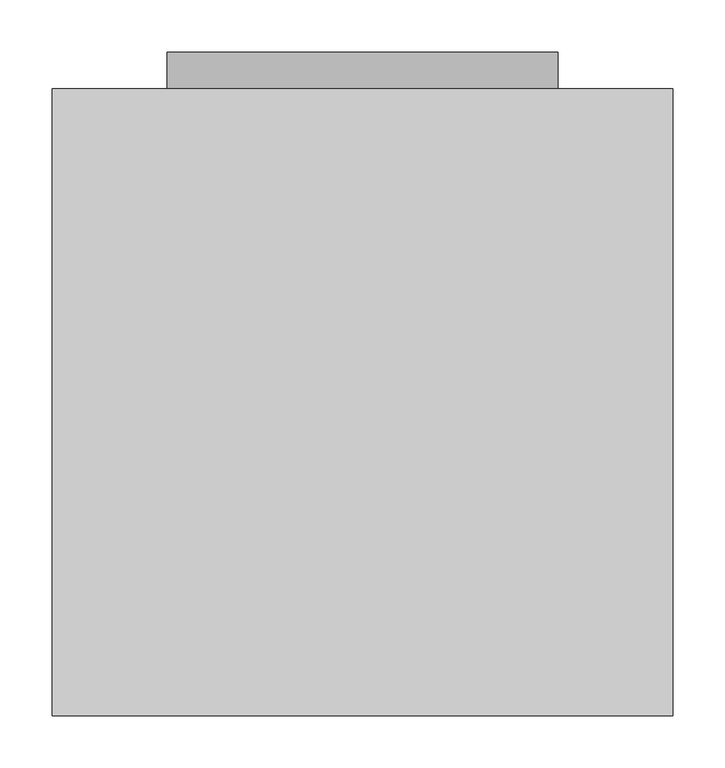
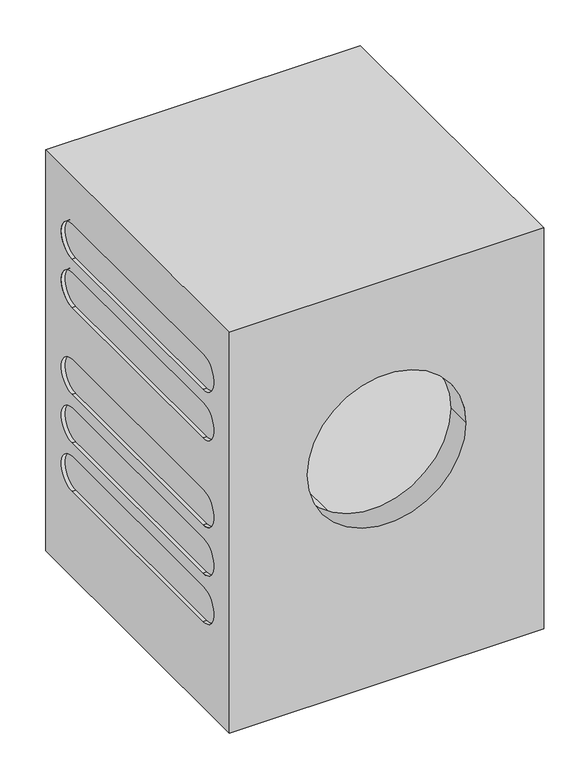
"""IFC4 building model written with IfcOpenShell, lengths in millimetres: proxy geometry, 11093960_F_PWM506DV_LWMopStar6 : 51506261_F_11093960_PWM506DV_LWMopStar6."""

from ifc_helpers import new_model, si_unit, point, frame, frame_2d, origin, place, context, project, spatial, polyline, circle_curve, trimmed, segment, composite_curve, outline, extrude, source, transform, mapped, element, save
from ifc_brep_helpers import plane_surface, revolved_surface, advanced_brep


def specialty_equipment_189d753a(model_context):
    return source(origin(), model_context, "Body", "SolidModel", [
        advanced_brep(
        [(298.0, -35.0, 816.0), (298.0, -35.0, 13.5), (-298.0, -35.0, 13.5), (-298.0, -35.0, 816.0), (215.0, -35.0, 130.0), (119.0, -35.0, 130.0), (119.0, -35.0, 80.0), (215.0, -35.0, 80.0), (298.0, -637.0, 816.0), (-298.0, -637.0, 816.0), (-298.0, -637.0, 13.5), (298.0, -637.0, 13.5), (150.0, -637.0, 478.0), (-150.0, -637.0, 478.0), (298.0, -552.0, 650.0), (298.0, -552.0, 720.0), (298.0, -122.0, 720.0), (298.0, -122.0, 650.0), (298.0, -552.0, 553.0), (298.0, -552.0, 623.0), (298.0, -122.0, 623.0), (298.0, -122.0, 553.0), (298.0, -552.0, 282.0), (298.0, -552.0, 352.0), (298.0, -122.0, 352.0), (298.0, -122.0, 282.0), (298.0, -552.0, 185.0), (298.0, -552.0, 255.0), (298.0, -122.0, 255.0), (298.0, -122.0, 185.0), (298.0, -552.0, 379.0), (298.0, -552.0, 449.0), (298.0, -122.0, 449.0), (298.0, -122.0, 379.0), (-298.0, -552.0, 720.0), (-298.0, -552.0, 650.0), (-298.0, -122.0, 650.0), (-298.0, -122.0, 720.0), (-298.0, -552.0, 623.0), (-298.0, -552.0, 553.0), (-298.0, -122.0, 553.0), (-298.0, -122.0, 623.0), (-298.0, -552.0, 352.0), (-298.0, -552.0, 282.0), (-298.0, -122.0, 282.0), (-298.0, -122.0, 352.0), (-298.0, -552.0, 255.0), (-298.0, -552.0, 185.0), (-298.0, -122.0, 185.0), (-298.0, -122.0, 255.0), (-298.0, -552.0, 379.0), (-298.0, -122.0, 379.0), (-298.0, -122.0, 449.0), (-298.0, -552.0, 449.0), (-150.0, -589.0, 478.0), (150.0, -589.0, 478.0), (0.0, -227.0, 238.0), (0.0, -227.0, 718.0), (0.0, -589.0, 238.0), (0.0, -589.0, 718.0), (-291.0, -552.0, 720.0), (-291.0, -122.0, 720.0), (-291.0, -122.0, 650.0), (-291.0, -552.0, 650.0), (-291.0, -552.0, 623.0), (-291.0, -122.0, 623.0), (-291.0, -122.0, 553.0), (-291.0, -552.0, 553.0), (-291.0, -552.0, 352.0), (-291.0, -122.0, 352.0), (-291.0, -122.0, 282.0), (-291.0, -552.0, 282.0), (-291.0, -552.0, 255.0), (-291.0, -122.0, 255.0), (-291.0, -122.0, 185.0), (-291.0, -552.0, 185.0), (291.0, -552.0, 720.0), (291.0, -552.0, 650.0), (291.0, -122.0, 650.0), (291.0, -122.0, 720.0), (291.0, -552.0, 623.0), (291.0, -552.0, 553.0), (291.0, -122.0, 553.0), (291.0, -122.0, 623.0), (291.0, -552.0, 352.0), (291.0, -552.0, 282.0), (291.0, -122.0, 282.0), (291.0, -122.0, 352.0), (291.0, -552.0, 255.0), (291.0, -552.0, 185.0), (291.0, -122.0, 185.0), (291.0, -122.0, 255.0), (-291.0, -552.0, 449.0), (-291.0, -122.0, 449.0), (-291.0, -122.0, 379.0), (-291.0, -552.0, 379.0), (291.0, -552.0, 449.0), (291.0, -552.0, 379.0), (291.0, -122.0, 379.0), (291.0, -122.0, 449.0), (119.0, -152.0, 130.0), (215.0, -152.0, 130.0), (215.0, -152.0, 80.0), (119.0, -152.0, 80.0)],
        [
            (0, 1),
            (1, 2),
            (2, 3),
            (3, 0),
            (4, 5),
            (5, 6),
            (6, 7),
            (7, 4),
            (8, 9),
            (9, 10),
            (10, 11),
            (11, 8),
            (12, 13, circle_curve(frame((0.0, -637.0, 478.0), z_axis=(0.0, 1.0, 0.0), x_axis=(-1.0, 0.0, 0.0)), 150.0)),
            (13, 12, circle_curve(frame((0.0, -637.0, 478.0), z_axis=(0.0, 1.0, 0.0), x_axis=(-1.0, 0.0, 0.0)), 150.0)),
            (0, 8),
            (11, 1),
            (14, 15, circle_curve(frame((298.0, -552.0, 685.0), z_axis=(-1.0, 0.0, 0.0), x_axis=(0.0, 1.0, 0.0)), 35.0)),
            (15, 16),
            (16, 17, circle_curve(frame((298.0, -122.0, 685.0), z_axis=(-1.0, 0.0, 0.0), x_axis=(0.0, 1.0, 0.0)), 35.0)),
            (17, 14),
            (18, 19, circle_curve(frame((298.0, -552.0, 588.0), z_axis=(-1.0, 0.0, 0.0), x_axis=(0.0, 1.0, 0.0)), 35.0)),
            (19, 20),
            (20, 21, circle_curve(frame((298.0, -122.0, 588.0), z_axis=(-1.0, 0.0, 0.0), x_axis=(0.0, 1.0, 0.0)), 35.0)),
            (21, 18),
            (22, 23, circle_curve(frame((298.0, -552.0, 317.0), z_axis=(-1.0, 0.0, 0.0), x_axis=(0.0, 1.0, 0.0)), 35.0)),
            (23, 24),
            (24, 25, circle_curve(frame((298.0, -122.0, 317.0), z_axis=(-1.0, 0.0, 0.0), x_axis=(0.0, 1.0, 0.0)), 35.0)),
            (25, 22),
            (26, 27, circle_curve(frame((298.0, -552.0, 220.0), z_axis=(-1.0, 0.0, 0.0), x_axis=(0.0, 1.0, 0.0)), 35.0)),
            (27, 28),
            (28, 29, circle_curve(frame((298.0, -122.0, 220.0), z_axis=(-1.0, 0.0, 0.0), x_axis=(0.0, 1.0, 0.0)), 35.0)),
            (29, 26),
            (30, 31, circle_curve(frame((298.0, -552.0, 414.0), z_axis=(-1.0, 0.0, 0.0), x_axis=(0.0, 1.0, 0.0)), 35.0)),
            (31, 32),
            (32, 33, circle_curve(frame((298.0, -122.0, 414.0), z_axis=(-1.0, 0.0, 0.0), x_axis=(0.0, 1.0, 0.0)), 35.0)),
            (33, 30),
            (10, 2),
            (9, 3),
            (34, 35, circle_curve(frame((-298.0, -552.0, 685.0), z_axis=(1.0, 0.0, 0.0), x_axis=(0.0, 1.0, 0.0)), 35.0)),
            (35, 36),
            (36, 37, circle_curve(frame((-298.0, -122.0, 685.0), z_axis=(1.0, 0.0, 0.0), x_axis=(0.0, 1.0, 0.0)), 35.0)),
            (37, 34),
            (38, 39, circle_curve(frame((-298.0, -552.0, 588.0), z_axis=(1.0, 0.0, 0.0), x_axis=(0.0, 1.0, 0.0)), 35.0)),
            (39, 40),
            (40, 41, circle_curve(frame((-298.0, -122.0, 588.0), z_axis=(1.0, 0.0, 0.0), x_axis=(0.0, 1.0, 0.0)), 35.0)),
            (41, 38),
            (42, 43, circle_curve(frame((-298.0, -552.0, 317.0), z_axis=(1.0, 0.0, 0.0), x_axis=(0.0, 1.0, 0.0)), 35.0)),
            (43, 44),
            (44, 45, circle_curve(frame((-298.0, -122.0, 317.0), z_axis=(1.0, 0.0, 0.0), x_axis=(0.0, 1.0, 0.0)), 35.0)),
            (45, 42),
            (46, 47, circle_curve(frame((-298.0, -552.0, 220.0), z_axis=(1.0, 0.0, 0.0), x_axis=(0.0, 1.0, 0.0)), 35.0)),
            (47, 48),
            (48, 49, circle_curve(frame((-298.0, -122.0, 220.0), z_axis=(1.0, 0.0, 0.0), x_axis=(0.0, 1.0, 0.0)), 35.0)),
            (49, 46),
            (50, 51),
            (51, 52, circle_curve(frame((-298.0, -122.0, 414.0), z_axis=(1.0, 0.0, 0.0), x_axis=(0.0, 1.0, 0.0)), 35.0)),
            (52, 53),
            (53, 50, circle_curve(frame((-298.0, -552.0, 414.0), z_axis=(1.0, 0.0, 0.0), x_axis=(0.0, 1.0, 0.0)), 35.0)),
            (54, 13),
            (12, 55),
            (55, 54, circle_curve(frame((0.0, -589.0, 478.0), z_axis=(0.0, 1.0, 0.0), x_axis=(-1.0, 0.0, 0.0)), 150.0)),
            (54, 55, circle_curve(frame((0.0, -589.0, 478.0), z_axis=(0.0, 1.0, 0.0), x_axis=(-1.0, 0.0, 0.0)), 150.0)),
            (56, 57, circle_curve(frame((0.0, -227.0, 478.0), z_axis=(0.0, -1.0, 0.0), x_axis=(0.0, 0.0, 1.0)), 240.0)),
            (57, 56, circle_curve(frame((0.0, -227.0, 478.0), z_axis=(0.0, -1.0, 0.0), x_axis=(0.0, 0.0, 1.0)), 240.0)),
            (58, 59, circle_curve(frame((0.0, -589.0, 478.0), z_axis=(0.0, 1.0, 0.0), x_axis=(0.0, 0.0, 1.0)), 240.0)),
            (59, 58, circle_curve(frame((0.0, -589.0, 478.0), z_axis=(0.0, 1.0, 0.0), x_axis=(0.0, 0.0, 1.0)), 240.0)),
            (56, 58),
            (59, 57),
            (60, 61),
            (61, 62, circle_curve(frame((-291.0, -122.0, 685.0), z_axis=(-1.0, 0.0, 0.0), x_axis=(0.0, 1.0, 0.0)), 35.0)),
            (62, 63),
            (63, 60, circle_curve(frame((-291.0, -552.0, 685.0), z_axis=(-1.0, 0.0, 0.0), x_axis=(0.0, 1.0, 0.0)), 35.0)),
            (64, 65),
            (65, 66, circle_curve(frame((-291.0, -122.0, 588.0), z_axis=(-1.0, 0.0, 0.0), x_axis=(0.0, 1.0, 0.0)), 35.0)),
            (66, 67),
            (67, 64, circle_curve(frame((-291.0, -552.0, 588.0), z_axis=(-1.0, 0.0, 0.0), x_axis=(0.0, 1.0, 0.0)), 35.0)),
            (68, 69),
            (69, 70, circle_curve(frame((-291.0, -122.0, 317.0), z_axis=(-1.0, 0.0, 0.0), x_axis=(0.0, 1.0, 0.0)), 35.0)),
            (70, 71),
            (71, 68, circle_curve(frame((-291.0, -552.0, 317.0), z_axis=(-1.0, 0.0, 0.0), x_axis=(0.0, 1.0, 0.0)), 35.0)),
            (72, 73),
            (73, 74, circle_curve(frame((-291.0, -122.0, 220.0), z_axis=(-1.0, 0.0, 0.0), x_axis=(0.0, 1.0, 0.0)), 35.0)),
            (74, 75),
            (75, 72, circle_curve(frame((-291.0, -552.0, 220.0), z_axis=(-1.0, 0.0, 0.0), x_axis=(0.0, 1.0, 0.0)), 35.0)),
            (63, 35),
            (34, 60),
            (62, 36),
            (61, 37),
            (67, 39),
            (38, 64),
            (66, 40),
            (65, 41),
            (71, 43),
            (42, 68),
            (70, 44),
            (69, 45),
            (75, 47),
            (46, 72),
            (74, 48),
            (73, 49),
            (76, 77, circle_curve(frame((291.0, -552.0, 685.0), z_axis=(1.0, 0.0, 0.0), x_axis=(0.0, 1.0, 0.0)), 35.0)),
            (77, 78),
            (78, 79, circle_curve(frame((291.0, -122.0, 685.0), z_axis=(1.0, 0.0, 0.0), x_axis=(0.0, 1.0, 0.0)), 35.0)),
            (79, 76),
            (80, 81, circle_curve(frame((291.0, -552.0, 588.0), z_axis=(1.0, 0.0, 0.0), x_axis=(0.0, 1.0, 0.0)), 35.0)),
            (81, 82),
            (82, 83, circle_curve(frame((291.0, -122.0, 588.0), z_axis=(1.0, 0.0, 0.0), x_axis=(0.0, 1.0, 0.0)), 35.0)),
            (83, 80),
            (84, 85, circle_curve(frame((291.0, -552.0, 317.0), z_axis=(1.0, 0.0, 0.0), x_axis=(0.0, 1.0, 0.0)), 35.0)),
            (85, 86),
            (86, 87, circle_curve(frame((291.0, -122.0, 317.0), z_axis=(1.0, 0.0, 0.0), x_axis=(0.0, 1.0, 0.0)), 35.0)),
            (87, 84),
            (88, 89, circle_curve(frame((291.0, -552.0, 220.0), z_axis=(1.0, 0.0, 0.0), x_axis=(0.0, 1.0, 0.0)), 35.0)),
            (89, 90),
            (90, 91, circle_curve(frame((291.0, -122.0, 220.0), z_axis=(1.0, 0.0, 0.0), x_axis=(0.0, 1.0, 0.0)), 35.0)),
            (91, 88),
            (76, 15),
            (14, 77),
            (17, 78),
            (16, 79),
            (80, 19),
            (18, 81),
            (21, 82),
            (20, 83),
            (84, 23),
            (22, 85),
            (25, 86),
            (24, 87),
            (88, 27),
            (26, 89),
            (29, 90),
            (28, 91),
            (92, 93),
            (93, 94, circle_curve(frame((-291.0, -122.0, 414.0), z_axis=(-1.0, 0.0, 0.0), x_axis=(0.0, 1.0, 0.0)), 35.0)),
            (94, 95),
            (95, 92, circle_curve(frame((-291.0, -552.0, 414.0), z_axis=(-1.0, 0.0, 0.0), x_axis=(0.0, 1.0, 0.0)), 35.0)),
            (94, 51),
            (50, 95),
            (92, 53),
            (52, 93),
            (96, 97, circle_curve(frame((291.0, -552.0, 414.0), z_axis=(1.0, 0.0, 0.0), x_axis=(0.0, 1.0, 0.0)), 35.0)),
            (97, 98),
            (98, 99, circle_curve(frame((291.0, -122.0, 414.0), z_axis=(1.0, 0.0, 0.0), x_axis=(0.0, 1.0, 0.0)), 35.0)),
            (99, 96),
            (96, 31),
            (30, 97),
            (33, 98),
            (32, 99),
            (100, 101),
            (101, 102),
            (102, 103),
            (103, 100),
            (100, 5),
            (4, 101),
            (7, 102),
            (6, 103),
        ],
        [
            plane_surface(frame((298.0, -35.0, 816.0), z_axis=(0.0, 1.0, 0.0), x_axis=(0.0, 0.0, -1.0))),
            plane_surface(frame((298.0, -637.0, 816.0), z_axis=(0.0, -1.0, 0.0), x_axis=(0.0, 0.0, 1.0))),
            plane_surface(frame((298.0, -35.0, 816.0), z_axis=(1.0, 0.0, 0.0), x_axis=(0.0, -1.0, 0.0))),
            plane_surface(frame((298.0, -35.0, 13.5), z_axis=(0.0, 0.0, -1.0), x_axis=(0.0, -1.0, 0.0))),
            plane_surface(frame((-298.0, -35.0, 13.5), z_axis=(-1.0, 0.0, 0.0), x_axis=(0.0, -1.0, 0.0))),
            plane_surface(frame((-298.0, -35.0, 816.0), z_axis=(0.0, 0.0, 1.0), x_axis=(0.0, -1.0, 0.0))),
            revolved_surface(polyline([(-150.0, -589.0, 478.0), (-150.0, -637.0, 478.0)]), (0.0, -637.0, 478.0), (0.0, 1.0, 0.0)),
            plane_surface(frame((0.0, -227.0, 718.0), z_axis=(0.0, -1.0, 0.0), x_axis=(1.0, 0.0, 0.0))),
            plane_surface(frame((0.0, -589.0, 718.0), z_axis=(0.0, 1.0, 0.0), x_axis=(-1.0, 0.0, 0.0))),
            revolved_surface(polyline([(0.0, -589.0, 718.0), (0.0, -227.0, 718.0)]), (0.0, -227.0, 478.0), (0.0, -1.0, 0.0)),
            plane_surface(frame((-291.0, -517.0, 685.0), z_axis=(-1.0, 0.0, 0.0), x_axis=(0.0, 0.0, 1.0))),
            revolved_surface(polyline([(-291.0, -517.0, 685.0), (-298.0, -517.0, 685.0)]), (-298.0, -552.0, 685.0), (1.0, 0.0, 0.0)),
            plane_surface(frame((-291.0, -552.0, 650.0), z_axis=(0.0, 0.0, 1.0), x_axis=(-1.0, 0.0, 0.0))),
            revolved_surface(polyline([(-291.0, -87.0, 685.0), (-298.0, -87.0, 685.0)]), (-298.0, -122.0, 685.0), (1.0, 0.0, 0.0)),
            plane_surface(frame((-291.0, -122.0, 720.0), z_axis=(0.0, 0.0, -1.0), x_axis=(-1.0, 0.0, 0.0))),
            revolved_surface(polyline([(-291.0, -517.0, 588.0), (-298.0, -517.0, 588.0)]), (-298.0, -552.0, 588.0), (1.0, 0.0, 0.0)),
            plane_surface(frame((-291.0, -552.0, 553.0), z_axis=(0.0, 0.0, 1.0), x_axis=(-1.0, 0.0, 0.0))),
            revolved_surface(polyline([(-291.0, -87.0, 588.0), (-298.0, -87.0, 588.0)]), (-298.0, -122.0, 588.0), (1.0, 0.0, 0.0)),
            plane_surface(frame((-291.0, -122.0, 623.0), z_axis=(0.0, 0.0, -1.0), x_axis=(-1.0, 0.0, 0.0))),
            revolved_surface(polyline([(-291.0, -517.0, 317.0), (-298.0, -517.0, 317.0)]), (-298.0, -552.0, 317.0), (1.0, 0.0, 0.0)),
            plane_surface(frame((-291.0, -552.0, 282.0), z_axis=(0.0, 0.0, 1.0), x_axis=(-1.0, 0.0, 0.0))),
            revolved_surface(polyline([(-291.0, -87.0, 317.0), (-298.0, -87.0, 317.0)]), (-298.0, -122.0, 317.0), (1.0, 0.0, 0.0)),
            plane_surface(frame((-291.0, -122.0, 352.0), z_axis=(0.0, 0.0, -1.0), x_axis=(-1.0, 0.0, 0.0))),
            revolved_surface(polyline([(-291.0, -517.0, 220.0), (-298.0, -517.0, 220.0)]), (-298.0, -552.0, 220.0), (1.0, 0.0, 0.0)),
            plane_surface(frame((-291.0, -552.0, 185.0), z_axis=(0.0, 0.0, 1.0), x_axis=(-1.0, 0.0, 0.0))),
            revolved_surface(polyline([(-291.0, -87.0, 220.0), (-298.0, -87.0, 220.0)]), (-298.0, -122.0, 220.0), (1.0, 0.0, 0.0)),
            plane_surface(frame((-291.0, -122.0, 255.0), z_axis=(0.0, 0.0, -1.0), x_axis=(-1.0, 0.0, 0.0))),
            plane_surface(frame((291.0, -517.0, 685.0), z_axis=(1.0, 0.0, 0.0), x_axis=(0.0, 0.0, -1.0))),
            revolved_surface(polyline([(298.0, -517.0, 685.0), (291.0, -517.0, 685.0)]), (291.0, -552.0, 685.0), (1.0, 0.0, 0.0)),
            plane_surface(frame((298.0, -552.0, 650.0), z_axis=(0.0, 0.0, 1.0), x_axis=(-1.0, 0.0, 0.0))),
            revolved_surface(polyline([(298.0, -87.0, 685.0), (291.0, -87.0, 685.0)]), (291.0, -122.0, 685.0), (1.0, 0.0, 0.0)),
            plane_surface(frame((298.0, -122.0, 720.0), z_axis=(0.0, 0.0, -1.0), x_axis=(-1.0, 0.0, 0.0))),
            revolved_surface(polyline([(298.0, -517.0, 588.0), (291.0, -517.0, 588.0)]), (298.0, -552.0, 588.0), (1.0, 0.0, 0.0)),
            plane_surface(frame((298.0, -552.0, 553.0), z_axis=(0.0, 0.0, 1.0), x_axis=(-1.0, 0.0, 0.0))),
            revolved_surface(polyline([(298.0, -87.0, 588.0), (291.0, -87.0, 588.0)]), (298.0, -122.0, 588.0), (1.0, 0.0, 0.0)),
            plane_surface(frame((298.0, -122.0, 623.0), z_axis=(0.0, 0.0, -1.0), x_axis=(-1.0, 0.0, 0.0))),
            revolved_surface(polyline([(298.0, -517.0, 317.0), (291.0, -517.0, 317.0)]), (298.0, -552.0, 317.0), (1.0, 0.0, 0.0)),
            plane_surface(frame((298.0, -552.0, 282.0), z_axis=(0.0, 0.0, 1.0), x_axis=(-1.0, 0.0, 0.0))),
            revolved_surface(polyline([(298.0, -87.0, 317.0), (291.0, -87.0, 317.0)]), (298.0, -122.0, 317.0), (1.0, 0.0, 0.0)),
            plane_surface(frame((298.0, -122.0, 352.0), z_axis=(0.0, 0.0, -1.0), x_axis=(-1.0, 0.0, 0.0))),
            revolved_surface(polyline([(298.0, -517.0, 220.0), (291.0, -517.0, 220.0)]), (298.0, -552.0, 220.0), (1.0, 0.0, 0.0)),
            plane_surface(frame((298.0, -552.0, 185.0), z_axis=(0.0, 0.0, 1.0), x_axis=(-1.0, 0.0, 0.0))),
            revolved_surface(polyline([(298.0, -87.0, 220.0), (291.0, -87.0, 220.0)]), (298.0, -122.0, 220.0), (1.0, 0.0, 0.0)),
            plane_surface(frame((298.0, -122.0, 255.0), z_axis=(0.0, 0.0, -1.0), x_axis=(-1.0, 0.0, 0.0))),
            plane_surface(frame((-291.0, -517.0, 414.0), z_axis=(-1.0, 0.0, 0.0), x_axis=(0.0, 0.0, 1.0))),
            plane_surface(frame((-291.0, -552.0, 379.0), z_axis=(0.0, 0.0, 1.0), x_axis=(-1.0, 0.0, 0.0))),
            plane_surface(frame((-291.0, -122.0, 449.0), z_axis=(0.0, 0.0, -1.0), x_axis=(-1.0, 0.0, 0.0))),
            revolved_surface(polyline([(-291.0, -517.0, 414.0), (-298.0, -517.0, 414.0)]), (-298.0, -552.0, 414.0), (1.0, 0.0, 0.0)),
            revolved_surface(polyline([(-291.0, -87.0, 414.0), (-298.0, -87.0, 414.0)]), (-298.0, -122.0, 414.0), (1.0, 0.0, 0.0)),
            plane_surface(frame((291.0, -517.0, 414.0), z_axis=(1.0, 0.0, 0.0), x_axis=(0.0, 0.0, -1.0))),
            revolved_surface(polyline([(298.0, -517.0, 414.0), (291.0, -517.0, 414.0)]), (291.0, -552.0, 414.0), (1.0, 0.0, 0.0)),
            plane_surface(frame((298.0, -552.0, 379.0), z_axis=(0.0, 0.0, 1.0), x_axis=(-1.0, 0.0, 0.0))),
            revolved_surface(polyline([(298.0, -87.0, 414.0), (291.0, -87.0, 414.0)]), (291.0, -122.0, 414.0), (1.0, 0.0, 0.0)),
            plane_surface(frame((298.0, -122.0, 449.0), z_axis=(0.0, 0.0, -1.0), x_axis=(-1.0, 0.0, 0.0))),
            plane_surface(frame((215.0, -152.0, 130.0), z_axis=(0.0, 1.0, 0.0), x_axis=(-1.0, 0.0, 0.0))),
            plane_surface(frame((119.0, -35.0, 130.0), z_axis=(0.0, 0.0, -1.0), x_axis=(0.0, -1.0, 0.0))),
            plane_surface(frame((215.0, -35.0, 130.0), z_axis=(-1.0, 0.0, 0.0), x_axis=(0.0, -1.0, 0.0))),
            plane_surface(frame((215.0, -35.0, 80.0), z_axis=(0.0, 0.0, 1.0), x_axis=(0.0, -1.0, 0.0))),
            plane_surface(frame((119.0, -35.0, 80.0), z_axis=(1.0, 0.0, 0.0), x_axis=(0.0, -1.0, 0.0))),
        ],
        [
            (0, [[1, 2, 3, 4], [5, 6, 7, 8]]),
            (1, [[9, 10, 11, 12], [13, 14]]),
            (2, [[-1, 15, -12, 16], [17, 18, 19, 20], [21, 22, 23, 24], [25, 26, 27, 28], [29, 30, 31, 32], [33, 34, 35, 36]]),
            (3, [[-2, -16, -11, 37]]),
            (4, [[-3, -37, -10, 38], [39, 40, 41, 42], [43, 44, 45, 46], [47, 48, 49, 50], [51, 52, 53, 54], [55, 56, 57, 58]]),
            (5, [[-4, -38, -9, -15]]),
            (6, [[59, -13, 60, 61]]),
            (6, [[-59, 62, -60, -14]]),
            (7, [[63, 64]]),
            (8, [[65, 66], [-61, -62]]),
            (9, [[-63, 67, -66, 68]]),
            (9, [[-64, -68, -65, -67]]),
            (10, [[69, 70, 71, 72]]),
            (10, [[73, 74, 75, 76]]),
            (10, [[77, 78, 79, 80]]),
            (10, [[81, 82, 83, 84]]),
            (11, [[-72, 85, -39, 86]]),
            (12, [[-71, 87, -40, -85]]),
            (13, [[-70, 88, -41, -87]]),
            (14, [[-69, -86, -42, -88]]),
            (15, [[-76, 89, -43, 90]]),
            (16, [[-75, 91, -44, -89]]),
            (17, [[-74, 92, -45, -91]]),
            (18, [[-73, -90, -46, -92]]),
            (19, [[-80, 93, -47, 94]]),
            (20, [[-79, 95, -48, -93]]),
            (21, [[-78, 96, -49, -95]]),
            (22, [[-77, -94, -50, -96]]),
            (23, [[-84, 97, -51, 98]]),
            (24, [[-83, 99, -52, -97]]),
            (25, [[-82, 100, -53, -99]]),
            (26, [[-81, -98, -54, -100]]),
            (27, [[101, 102, 103, 104]]),
            (27, [[105, 106, 107, 108]]),
            (27, [[109, 110, 111, 112]]),
            (27, [[113, 114, 115, 116]]),
            (28, [[-101, 117, -17, 118]]),
            (29, [[-102, -118, -20, 119]]),
            (30, [[-103, -119, -19, 120]]),
            (31, [[-104, -120, -18, -117]]),
            (32, [[-105, 121, -21, 122]]),
            (33, [[-106, -122, -24, 123]]),
            (34, [[-107, -123, -23, 124]]),
            (35, [[-108, -124, -22, -121]]),
            (36, [[-109, 125, -25, 126]]),
            (37, [[-110, -126, -28, 127]]),
            (38, [[-111, -127, -27, 128]]),
            (39, [[-112, -128, -26, -125]]),
            (40, [[-113, 129, -29, 130]]),
            (41, [[-114, -130, -32, 131]]),
            (42, [[-115, -131, -31, 132]]),
            (43, [[-116, -132, -30, -129]]),
            (44, [[133, 134, 135, 136]]),
            (45, [[-135, 137, -55, 138]]),
            (46, [[-133, 139, -57, 140]]),
            (47, [[-136, -138, -58, -139]]),
            (48, [[-134, -140, -56, -137]]),
            (49, [[141, 142, 143, 144]]),
            (50, [[-141, 145, -33, 146]]),
            (51, [[-142, -146, -36, 147]]),
            (52, [[-143, -147, -35, 148]]),
            (53, [[-144, -148, -34, -145]]),
            (54, [[149, 150, 151, 152]]),
            (55, [[-149, 153, -5, 154]]),
            (56, [[-150, -154, -8, 155]]),
            (57, [[-151, -155, -7, 156]]),
            (58, [[-152, -156, -6, -153]]),
        ],
    ),
        extrude(outline(composite_curve([segment(trimmed(circle_curve(frame_2d((478.0, 0.0)), 188.0), [point((452.0, 186.1934478))], [point((452.0, -186.1934478))], False, "CARTESIAN"), True, "CONTINUOUS"), segment(polyline([(452.0, -186.1934478), (124.0, -72.7255113)]), True, "CONTINUOUS"), segment(trimmed(circle_curve(frame_2d((168.0, 0.0)), 85.0), [point((124.0, -72.7255113))], [point((124.0, 72.7255113))], False, "CARTESIAN"), True, "CONTINUOUS"), segment(polyline([(124.0, 72.7255113), (452.0, 186.1934478)]), True, "CONTINUOUS")], self_intersect=False)), frame((0.0, -35.0, 0.0), z_axis=(0.0, 1.0, 0.0), x_axis=(0.0, 0.0, 1.0)), (0.0, 0.0, 1.0), 35.0),
    ])


if __name__ == "__main__":
    model = new_model("IFC4")
    model_context = context("Model", 3, world=origin())
    ifc_project = project(units=[si_unit("LENGTHUNIT", "METRE", prefix="MILLI")], contexts=[model_context])
    site = spatial("IfcSite", under=ifc_project)
    building = spatial("IfcBuilding", under=site)
    placement = place(None, origin())
    specialty_equipment_shape = specialty_equipment_189d753a(model_context)
    element("IfcBuildingElementProxy", 1, Name="11093960_F_PWM506DV_LWMopStar6 : 51506261_F_11093960_PWM506DV_LWMopStar6", ObjectType="11093960_F_PWM506DV_LWMopStar6 : 51506261_F_11093960_PWM506DV_LWMopStar6", at=placement, inside=building, context=model_context, shape_type="MappedRepresentation", body=[
        mapped(specialty_equipment_shape, transform((0.0, 0.0, 0.0), x_axis=(1.0, 0.0, 0.0), y_axis=(0.0, 1.0, 0.0), z_axis=(0.0, 0.0, 1.0))),
    ])
    save(model, "model.ifc")
